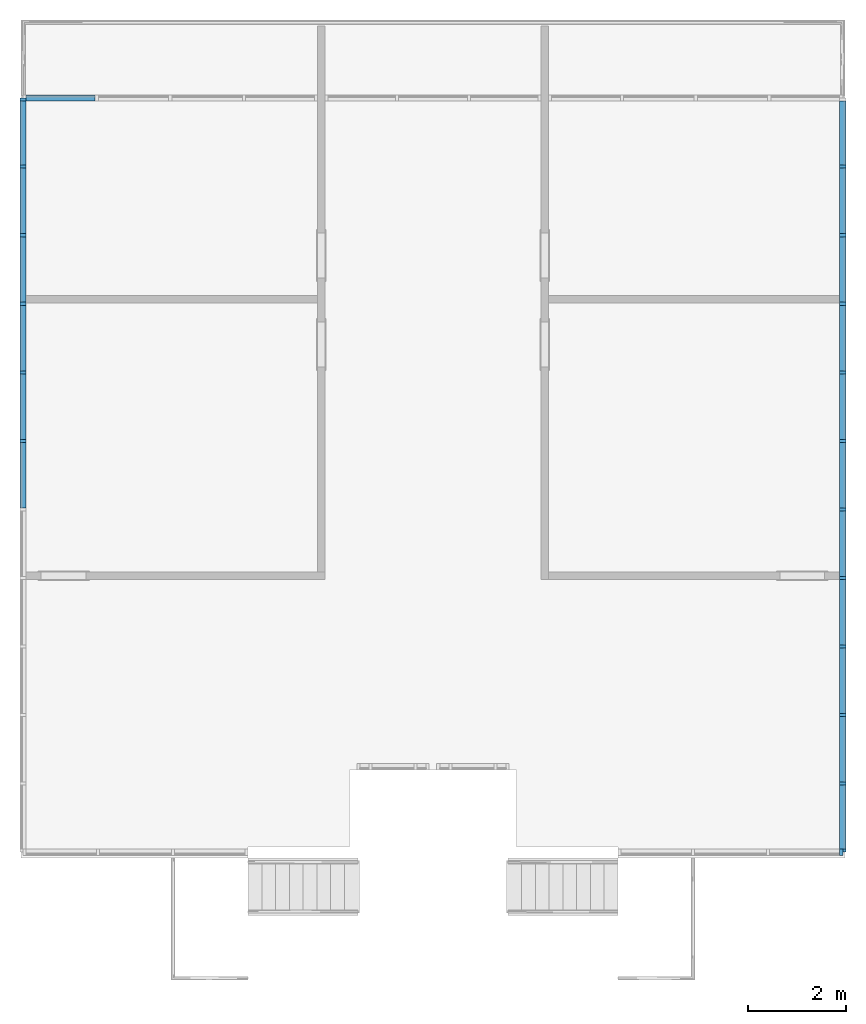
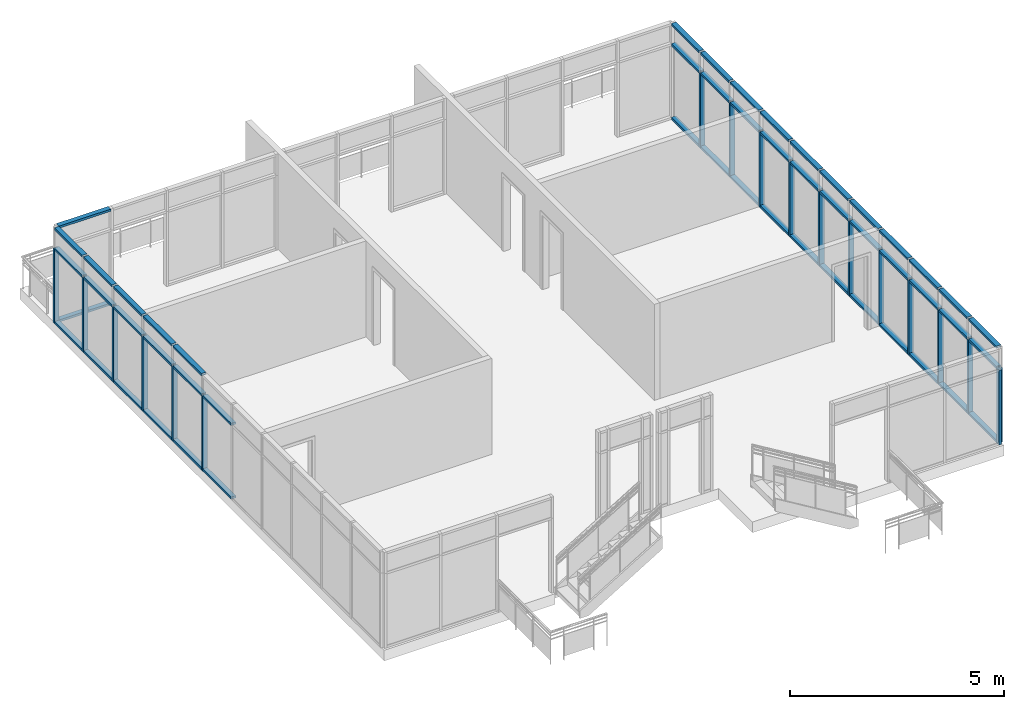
# One storey, part 2 of 11: 70 members, 4 elements without a shape of their own.
"""IFC2X3 building model written with IfcOpenShell, lengths in feet."""

from ifc_helpers import new_model, entity, si_unit, converted_unit, derived_unit, direction, frame, origin, origin_2d_with_axis, place, context, subcontext, project, spatial, rectangle, extrude, source, transform, mapped, material, type_object, type_shapes, element, aggregate, save


model = new_model("IFC2X3")

# Units and contexts
model_context = context("Model", 3, precision=0.0001, world=origin(), true_north=direction((6.12303176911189e-17, 1.0)))
body_context = subcontext(model_context, "Body", "Model", "MODEL_VIEW")
ifc_project = project(units=[converted_unit("LENGTHUNIT", "FOOT", entity("IfcRatioMeasure", 0.3048), si_unit("LENGTHUNIT", "METRE"), dimensions=[1, 0, 0, 0, 0, 0, 0]), converted_unit("AREAUNIT", "SQUARE FOOT", entity("IfcRatioMeasure", 0.09290304), si_unit("AREAUNIT", "SQUARE_METRE"), dimensions=[2, 0, 0, 0, 0, 0, 0]), converted_unit("VOLUMEUNIT", "CUBIC FOOT", entity("IfcRatioMeasure", 0.028316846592), si_unit("VOLUMEUNIT", "CUBIC_METRE"), dimensions=[3, 0, 0, 0, 0, 0, 0]), converted_unit("PLANEANGLEUNIT", "DEGREE", entity("IfcRatioMeasure", 0.0174532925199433), si_unit("PLANEANGLEUNIT", "RADIAN"), dimensions=[0, 0, 0, 0, 0, 0, 0]), si_unit("MASSUNIT", "GRAM", prefix="KILO"), derived_unit("MASSDENSITYUNIT", [(si_unit("MASSUNIT", "GRAM", prefix="KILO"), 1), (si_unit("LENGTHUNIT", "METRE"), -3)]), si_unit("TIMEUNIT", "SECOND"), si_unit("FREQUENCYUNIT", "HERTZ"), si_unit("THERMODYNAMICTEMPERATUREUNIT", "DEGREE_CELSIUS"), derived_unit("THERMALTRANSMITTANCEUNIT", [(si_unit("MASSUNIT", "GRAM", prefix="KILO"), 1), (si_unit("THERMODYNAMICTEMPERATUREUNIT", "KELVIN"), -1), (si_unit("TIMEUNIT", "SECOND"), -3)]), derived_unit("VOLUMETRICFLOWRATEUNIT", [(si_unit("LENGTHUNIT", "METRE"), 3), (si_unit("TIMEUNIT", "SECOND"), -1)]), si_unit("ELECTRICCURRENTUNIT", "AMPERE"), si_unit("ELECTRICVOLTAGEUNIT", "VOLT"), si_unit("POWERUNIT", "WATT"), si_unit("FORCEUNIT", "NEWTON"), si_unit("ILLUMINANCEUNIT", "LUX"), si_unit("LUMINOUSFLUXUNIT", "LUMEN"), si_unit("LUMINOUSINTENSITYUNIT", "CANDELA"), derived_unit("USERDEFINED", [(si_unit("MASSUNIT", "GRAM", prefix="KILO"), -1), (si_unit("LENGTHUNIT", "METRE"), -2), (si_unit("TIMEUNIT", "SECOND"), 3), (si_unit("LUMINOUSFLUXUNIT", "LUMEN"), 1)]), derived_unit("LINEARVELOCITYUNIT", [(si_unit("LENGTHUNIT", "METRE"), 1), (si_unit("TIMEUNIT", "SECOND"), -1)]), si_unit("PRESSUREUNIT", "PASCAL"), derived_unit("USERDEFINED", [(si_unit("LENGTHUNIT", "METRE"), -2), (si_unit("MASSUNIT", "GRAM", prefix="KILO"), 1), (si_unit("TIMEUNIT", "SECOND"), -2)])], contexts=[model_context])

# Site, building, storey
site_placement = place(None, origin())
site = spatial("IfcSite", under=ifc_project, at=site_placement, Name="Default", CompositionType="ELEMENT")
building_placement = place(site_placement, origin())
building = spatial("IfcBuilding", under=site, at=building_placement, CompositionType="ELEMENT")
storey_placement = place(building_placement, frame((0.0, 0.0, 40.0)))
storey = spatial("IfcBuildingStorey", under=building, at=storey_placement, Name="L 7", CompositionType="ELEMENT", Elevation=39.9999999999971)

# Curtain wall, member
curtain_wall_type = type_object("IfcCurtainWallType", Name="Curtain Wall:Storefront 2", PredefinedType="NOTDEFINED")
curtain_wall_1_placement = place(storey_placement, frame((0.0, 0.0, -40.0)))
curtain_wall_1 = element("IfcCurtainWall", 1, at=curtain_wall_1_placement, inside=storey, type_object=curtain_wall_type, Name="Curtain Wall:Storefront 2", ObjectType="Curtain Wall:Storefront 2")
ifc_material = material(Name="Aluminum")
member_type_1 = type_object("IfcMemberType", Name="2.5\" x 5\" rectangular", PredefinedType="MEMBER")
shared_shape_1 = source(origin(), body_context, "Body", "SweptSolid", [
    extrude(rectangle(XDim=0.416666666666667, YDim=0.208333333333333, at=origin_2d_with_axis()), frame((-0.104166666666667, 0.0, -7.0), z_axis=(0.0, 0.0, 1.0), x_axis=(0.0, -1.0, 0.0)), (0.0, 0.0, 1.0), 7.0),
])
type_shapes(member_type_1, [shared_shape_1])
member_1_placement = place(storey_placement, frame((-61.3251627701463, 43.3505254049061, 0.0), z_axis=(0.0, 0.0, -1.0), x_axis=(0.0, 1.0, 0.0)))
member_1 = element("IfcMember", 2, at=member_1_placement, type_object=member_type_1, material=ifc_material, Name="Rectangular Mullion:2.5\" x 5\" rectangular", ObjectType="2.5\" x 5\" rectangular", context=body_context, shape_type="MappedRepresentation", body=[
    mapped(shared_shape_1, transform((0.0, 0.0, 0.0), scale=1.0)),
])

curtain_wall_2_placement = place(storey_placement, frame((0.0, 0.0, -40.0)))
curtain_wall_2 = element("IfcCurtainWall", 3, at=curtain_wall_2_placement, inside=storey, type_object=curtain_wall_type, Name="Curtain Wall:Storefront 2", ObjectType="Curtain Wall:Storefront 2")
member_2_placement = place(storey_placement, frame((-6.65849610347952, -6.9411412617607, 0.0), z_axis=(0.0, 0.0, -1.0), x_axis=(0.0, -1.0, 0.0)))
member_2 = element("IfcMember", 4, at=member_2_placement, type_object=member_type_1, material=ifc_material, Name="Rectangular Mullion:2.5\" x 5\" rectangular", ObjectType="2.5\" x 5\" rectangular", context=body_context, shape_type="MappedRepresentation", body=[
    mapped(shared_shape_1, transform((0.0, 0.0, 0.0), scale=1.0)),
])

curtain_wall_3_placement = place(storey_placement, frame((0.0, 0.0, -40.0)))
curtain_wall_3 = element("IfcCurtainWall", 5, at=curtain_wall_3_placement, inside=storey, type_object=curtain_wall_type, Name="Curtain Wall:Storefront 2", ObjectType="Curtain Wall:Storefront 2")
member_type_2 = type_object("IfcMemberType", Name="2.5\" x 5\" rectangular", PredefinedType="MEMBER")
shared_shape_2 = source(origin(), body_context, "Body", "SweptSolid", [
    extrude(rectangle(XDim=0.416666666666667, YDim=0.208333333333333, at=origin_2d_with_axis()), frame((-0.104166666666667, 0.0, -7.0), z_axis=(0.0, 0.0, 1.0), x_axis=(0.0, -1.0, 0.0)), (0.0, 0.0, 1.0), 7.0),
])
type_shapes(member_type_2, [shared_shape_2])
member_3_placement = place(storey_placement, frame((-6.65849610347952, -6.94114126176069, 7.0)))
member_3 = element("IfcMember", 6, at=member_3_placement, type_object=member_type_2, material=ifc_material, Name="Rectangular Mullion:2.5\" x 5\" rectangular", ObjectType="2.5\" x 5\" rectangular", context=body_context, shape_type="MappedRepresentation", body=[
    mapped(shared_shape_2, transform((0.0, 0.0, 0.0), scale=1.0)),
])
aggregate(curtain_wall_3, [member_3])

# Member
member_type_3 = type_object("IfcMemberType", Name="2.5\" x 5\" rectangular", PredefinedType="MEMBER")
shared_shape_3 = source(origin(), body_context, "Body", "SweptSolid", [
    extrude(rectangle(XDim=0.416666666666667, YDim=0.208333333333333, at=origin_2d_with_axis()), frame((0.0, 0.0, -7.0), z_axis=(0.0, 0.0, 1.0), x_axis=(0.0, -1.0, 0.0)), (0.0, 0.0, 1.0), 7.0),
])
type_shapes(member_type_3, [shared_shape_3])
member_4_placement = place(storey_placement, frame((-61.3251627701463, 20.4906769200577, 0.0), z_axis=(0.0, 0.0, -1.0), x_axis=(0.0, 1.0, 0.0)))
member_4 = element("IfcMember", 7, at=member_4_placement, type_object=member_type_3, material=ifc_material, Name="Rectangular Mullion:2.5\" x 5\" rectangular", ObjectType="2.5\" x 5\" rectangular", context=body_context, shape_type="MappedRepresentation", body=[
    mapped(shared_shape_3, transform((0.0, 0.0, 0.0), scale=1.0)),
])

member_5_placement = place(storey_placement, frame((-61.3251627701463, 25.0626466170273, 0.0), z_axis=(0.0, 0.0, -1.0), x_axis=(0.0, 1.0, 0.0)))
member_5 = element("IfcMember", 8, at=member_5_placement, type_object=member_type_3, material=ifc_material, Name="Rectangular Mullion:2.5\" x 5\" rectangular", ObjectType="2.5\" x 5\" rectangular", context=body_context, shape_type="MappedRepresentation", body=[
    mapped(shared_shape_3, transform((0.0, 0.0, 0.0), scale=1.0)),
])

member_6_placement = place(storey_placement, frame((-61.3251627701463, 29.634616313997, 0.0), z_axis=(0.0, 0.0, -1.0), x_axis=(0.0, 1.0, 0.0)))
member_6 = element("IfcMember", 9, at=member_6_placement, type_object=member_type_3, material=ifc_material, Name="Rectangular Mullion:2.5\" x 5\" rectangular", ObjectType="2.5\" x 5\" rectangular", context=body_context, shape_type="MappedRepresentation", body=[
    mapped(shared_shape_3, transform((0.0, 0.0, 0.0), scale=1.0)),
])

member_7_placement = place(storey_placement, frame((-61.3251627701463, 34.2065860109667, 0.0), z_axis=(0.0, 0.0, -1.0), x_axis=(0.0, 1.0, 0.0)))
member_7 = element("IfcMember", 10, at=member_7_placement, type_object=member_type_3, material=ifc_material, Name="Rectangular Mullion:2.5\" x 5\" rectangular", ObjectType="2.5\" x 5\" rectangular", context=body_context, shape_type="MappedRepresentation", body=[
    mapped(shared_shape_3, transform((0.0, 0.0, 0.0), scale=1.0)),
])

member_8_placement = place(storey_placement, frame((-61.3251627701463, 38.7785557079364, 0.0), z_axis=(0.0, 0.0, -1.0), x_axis=(0.0, 1.0, 0.0)))
member_8 = element("IfcMember", 11, at=member_8_placement, type_object=member_type_3, material=ifc_material, Name="Rectangular Mullion:2.5\" x 5\" rectangular", ObjectType="2.5\" x 5\" rectangular", context=body_context, shape_type="MappedRepresentation", body=[
    mapped(shared_shape_3, transform((0.0, 0.0, 0.0), scale=1.0)),
])

member_9_placement = place(storey_placement, frame((-6.65849610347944, 38.7785557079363, 0.0), z_axis=(0.0, 0.0, -1.0), x_axis=(0.0, -1.0, 0.0)))
member_9 = element("IfcMember", 12, at=member_9_placement, type_object=member_type_3, material=ifc_material, Name="Rectangular Mullion:2.5\" x 5\" rectangular", ObjectType="2.5\" x 5\" rectangular", context=body_context, shape_type="MappedRepresentation", body=[
    mapped(shared_shape_3, transform((0.0, 0.0, 0.0), scale=1.0)),
])

member_10_placement = place(storey_placement, frame((-6.65849610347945, 34.2065860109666, 0.0), z_axis=(0.0, 0.0, -1.0), x_axis=(0.0, -1.0, 0.0)))
member_10 = element("IfcMember", 13, at=member_10_placement, type_object=member_type_3, material=ifc_material, Name="Rectangular Mullion:2.5\" x 5\" rectangular", ObjectType="2.5\" x 5\" rectangular", context=body_context, shape_type="MappedRepresentation", body=[
    mapped(shared_shape_3, transform((0.0, 0.0, 0.0), scale=1.0)),
])

member_11_placement = place(storey_placement, frame((-6.65849610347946, 29.6346163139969, 0.0), z_axis=(0.0, 0.0, -1.0), x_axis=(0.0, -1.0, 0.0)))
member_11 = element("IfcMember", 14, at=member_11_placement, type_object=member_type_3, material=ifc_material, Name="Rectangular Mullion:2.5\" x 5\" rectangular", ObjectType="2.5\" x 5\" rectangular", context=body_context, shape_type="MappedRepresentation", body=[
    mapped(shared_shape_3, transform((0.0, 0.0, 0.0), scale=1.0)),
])

member_12_placement = place(storey_placement, frame((-6.65849610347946, 25.0626466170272, 0.0), z_axis=(0.0, 0.0, -1.0), x_axis=(0.0, -1.0, 0.0)))
member_12 = element("IfcMember", 15, at=member_12_placement, type_object=member_type_3, material=ifc_material, Name="Rectangular Mullion:2.5\" x 5\" rectangular", ObjectType="2.5\" x 5\" rectangular", context=body_context, shape_type="MappedRepresentation", body=[
    mapped(shared_shape_3, transform((0.0, 0.0, 0.0), scale=1.0)),
])

member_13_placement = place(storey_placement, frame((-6.65849610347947, 20.4906769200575, 0.0), z_axis=(0.0, 0.0, -1.0), x_axis=(0.0, -1.0, 0.0)))
member_13 = element("IfcMember", 16, at=member_13_placement, type_object=member_type_3, material=ifc_material, Name="Rectangular Mullion:2.5\" x 5\" rectangular", ObjectType="2.5\" x 5\" rectangular", context=body_context, shape_type="MappedRepresentation", body=[
    mapped(shared_shape_3, transform((0.0, 0.0, 0.0), scale=1.0)),
])

member_14_placement = place(storey_placement, frame((-6.65849610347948, 15.9187072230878, 0.0), z_axis=(0.0, 0.0, -1.0), x_axis=(0.0, -1.0, 0.0)))
member_14 = element("IfcMember", 17, at=member_14_placement, type_object=member_type_3, material=ifc_material, Name="Rectangular Mullion:2.5\" x 5\" rectangular", ObjectType="2.5\" x 5\" rectangular", context=body_context, shape_type="MappedRepresentation", body=[
    mapped(shared_shape_3, transform((0.0, 0.0, 0.0), scale=1.0)),
])

member_15_placement = place(storey_placement, frame((-6.65849610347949, 11.3467375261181, 0.0), z_axis=(0.0, 0.0, -1.0), x_axis=(0.0, -1.0, 0.0)))
member_15 = element("IfcMember", 18, at=member_15_placement, type_object=member_type_3, material=ifc_material, Name="Rectangular Mullion:2.5\" x 5\" rectangular", ObjectType="2.5\" x 5\" rectangular", context=body_context, shape_type="MappedRepresentation", body=[
    mapped(shared_shape_3, transform((0.0, 0.0, 0.0), scale=1.0)),
])

member_16_placement = place(storey_placement, frame((-6.65849610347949, 6.77476782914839, 0.0), z_axis=(0.0, 0.0, -1.0), x_axis=(0.0, -1.0, 0.0)))
member_16 = element("IfcMember", 19, at=member_16_placement, type_object=member_type_3, material=ifc_material, Name="Rectangular Mullion:2.5\" x 5\" rectangular", ObjectType="2.5\" x 5\" rectangular", context=body_context, shape_type="MappedRepresentation", body=[
    mapped(shared_shape_3, transform((0.0, 0.0, 0.0), scale=1.0)),
])

member_17_placement = place(storey_placement, frame((-6.6584961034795, 2.20279813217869, 0.0), z_axis=(0.0, 0.0, -1.0), x_axis=(0.0, -1.0, 0.0)))
member_17 = element("IfcMember", 20, at=member_17_placement, type_object=member_type_3, material=ifc_material, Name="Rectangular Mullion:2.5\" x 5\" rectangular", ObjectType="2.5\" x 5\" rectangular", context=body_context, shape_type="MappedRepresentation", body=[
    mapped(shared_shape_3, transform((0.0, 0.0, 0.0), scale=1.0)),
])

member_18_placement = place(storey_placement, frame((-6.65849610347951, -2.369171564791, 0.0), z_axis=(0.0, 0.0, -1.0), x_axis=(0.0, -1.0, 0.0)))
member_18 = element("IfcMember", 21, at=member_18_placement, type_object=member_type_3, material=ifc_material, Name="Rectangular Mullion:2.5\" x 5\" rectangular", ObjectType="2.5\" x 5\" rectangular", context=body_context, shape_type="MappedRepresentation", body=[
    mapped(shared_shape_3, transform((0.0, 0.0, 0.0), scale=1.0)),
])

# Curtain wall, member
curtain_wall_4_placement = place(storey_placement, frame((0.0, 0.0, -40.0)))
curtain_wall_4 = element("IfcCurtainWall", 22, at=curtain_wall_4_placement, inside=storey, type_object=curtain_wall_type, Name="Curtain Wall:Storefront 2", ObjectType="Curtain Wall:Storefront 2")
member_type_4 = type_object("IfcMemberType", Name="2.5\" x 5\" rectangular", PredefinedType="MEMBER")
shared_shape_4 = source(origin(), body_context, "Body", "SweptSolid", [
    extrude(rectangle(XDim=0.416666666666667, YDim=0.208333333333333, at=origin_2d_with_axis()), frame((-0.104166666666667, 0.0, -4.59469696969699), z_axis=(0.0, 0.0, 1.0), x_axis=(0.0, -1.0, 0.0)), (0.0, 0.0, 1.0), 4.59469696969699),
])
type_shapes(member_type_4, [shared_shape_4])
member_19_placement = place(storey_placement, frame((-56.522132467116, 43.3505254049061, 9.0), z_axis=(1.0, 0.0, 0.0), x_axis=(0.0, 0.0, 1.0)))
member_19 = element("IfcMember", 23, at=member_19_placement, type_object=member_type_4, material=ifc_material, Name="Rectangular Mullion:2.5\" x 5\" rectangular", ObjectType="2.5\" x 5\" rectangular", context=body_context, shape_type="MappedRepresentation", body=[
    mapped(shared_shape_4, transform((0.0, 0.0, 0.0), scale=1.0)),
])

# Member
member_type_5 = type_object("IfcMemberType", Name="2.5\" x 5\" rectangular", PredefinedType="MEMBER")
shared_shape_5 = source(origin(), body_context, "Body", "SweptSolid", [
    extrude(rectangle(XDim=0.416666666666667, YDim=0.208333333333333, at=origin_2d_with_axis()), frame((-0.104166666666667, 0.0, -4.25946969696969), z_axis=(0.0, 0.0, 1.0), x_axis=(0.0, -1.0, 0.0)), (0.0, 0.0, 1.0), 4.2594696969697),
])
type_shapes(member_type_5, [shared_shape_5])
member_20_placement = place(storey_placement, frame((-61.3251627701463, 43.1421920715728, 9.0), z_axis=(0.0, 1.0, 0.0), x_axis=(0.0, 0.0, 1.0)))
member_20 = element("IfcMember", 24, at=member_20_placement, type_object=member_type_5, material=ifc_material, Name="Rectangular Mullion:2.5\" x 5\" rectangular", ObjectType="2.5\" x 5\" rectangular", context=body_context, shape_type="MappedRepresentation", body=[
    mapped(shared_shape_5, transform((0.0, 0.0, 0.0), scale=1.0)),
])

member_21_placement = place(storey_placement, frame((-6.65849610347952, -6.73280792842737, 9.0), z_axis=(0.0, -1.0, 0.0), x_axis=(0.0, 0.0, 1.0)))
member_21 = element("IfcMember", 25, at=member_21_placement, type_object=member_type_5, material=ifc_material, Name="Rectangular Mullion:2.5\" x 5\" rectangular", ObjectType="2.5\" x 5\" rectangular", context=body_context, shape_type="MappedRepresentation", body=[
    mapped(shared_shape_5, transform((0.0, 0.0, 0.0), scale=1.0)),
])

member_22_placement = place(storey_placement, frame((-6.65849610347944, 38.8827223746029, 9.0), z_axis=(0.0, -1.0, 0.0), x_axis=(0.0, 0.0, 1.0)))
member_22 = element("IfcMember", 26, at=member_22_placement, type_object=member_type_5, material=ifc_material, Name="Rectangular Mullion:2.5\" x 5\" rectangular", ObjectType="2.5\" x 5\" rectangular", context=body_context, shape_type="MappedRepresentation", body=[
    mapped(shared_shape_5, transform((0.0, 0.0, 0.0), scale=1.0)),
])

member_type_6 = type_object("IfcMemberType", Name="2.5\" x 5\" rectangular", PredefinedType="MEMBER")
shared_shape_6 = source(origin(), body_context, "Body", "SweptSolid", [
    extrude(rectangle(XDim=0.416666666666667, YDim=0.208333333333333, at=origin_2d_with_axis()), frame((-0.104166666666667, 0.0, -4.36363636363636), z_axis=(0.0, 0.0, 1.0), x_axis=(0.0, -1.0, 0.0)), (0.0, 0.0, 1.0), 4.36363636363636),
])
type_shapes(member_type_6, [shared_shape_6])
member_23_placement = place(storey_placement, frame((-61.3251627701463, 24.9584799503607, 9.0), z_axis=(0.0, 1.0, 0.0), x_axis=(0.0, 0.0, 1.0)))
member_23 = element("IfcMember", 27, at=member_23_placement, type_object=member_type_6, material=ifc_material, Name="Rectangular Mullion:2.5\" x 5\" rectangular", ObjectType="2.5\" x 5\" rectangular", context=body_context, shape_type="MappedRepresentation", body=[
    mapped(shared_shape_6, transform((0.0, 0.0, 0.0), scale=1.0)),
])

member_24_placement = place(storey_placement, frame((-61.3251627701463, 29.5304496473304, 9.0), z_axis=(0.0, 1.0, 0.0), x_axis=(0.0, 0.0, 1.0)))
member_24 = element("IfcMember", 28, at=member_24_placement, type_object=member_type_6, material=ifc_material, Name="Rectangular Mullion:2.5\" x 5\" rectangular", ObjectType="2.5\" x 5\" rectangular", context=body_context, shape_type="MappedRepresentation", body=[
    mapped(shared_shape_6, transform((0.0, 0.0, 0.0), scale=1.0)),
])

member_25_placement = place(storey_placement, frame((-61.3251627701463, 34.1024193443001, 9.0), z_axis=(0.0, 1.0, 0.0), x_axis=(0.0, 0.0, 1.0)))
member_25 = element("IfcMember", 29, at=member_25_placement, type_object=member_type_6, material=ifc_material, Name="Rectangular Mullion:2.5\" x 5\" rectangular", ObjectType="2.5\" x 5\" rectangular", context=body_context, shape_type="MappedRepresentation", body=[
    mapped(shared_shape_6, transform((0.0, 0.0, 0.0), scale=1.0)),
])

member_26_placement = place(storey_placement, frame((-61.3251627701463, 38.6743890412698, 9.0), z_axis=(0.0, 1.0, 0.0), x_axis=(0.0, 0.0, 1.0)))
member_26 = element("IfcMember", 30, at=member_26_placement, type_object=member_type_6, material=ifc_material, Name="Rectangular Mullion:2.5\" x 5\" rectangular", ObjectType="2.5\" x 5\" rectangular", context=body_context, shape_type="MappedRepresentation", body=[
    mapped(shared_shape_6, transform((0.0, 0.0, 0.0), scale=1.0)),
])

member_27_placement = place(storey_placement, frame((-6.65849610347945, 34.3107526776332, 9.0), z_axis=(0.0, -1.0, 0.0), x_axis=(0.0, 0.0, 1.0)))
member_27 = element("IfcMember", 31, at=member_27_placement, type_object=member_type_6, material=ifc_material, Name="Rectangular Mullion:2.5\" x 5\" rectangular", ObjectType="2.5\" x 5\" rectangular", context=body_context, shape_type="MappedRepresentation", body=[
    mapped(shared_shape_6, transform((0.0, 0.0, 0.0), scale=1.0)),
])

member_28_placement = place(storey_placement, frame((-6.65849610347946, 29.7387829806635, 9.0), z_axis=(0.0, -1.0, 0.0), x_axis=(0.0, 0.0, 1.0)))
member_28 = element("IfcMember", 32, at=member_28_placement, type_object=member_type_6, material=ifc_material, Name="Rectangular Mullion:2.5\" x 5\" rectangular", ObjectType="2.5\" x 5\" rectangular", context=body_context, shape_type="MappedRepresentation", body=[
    mapped(shared_shape_6, transform((0.0, 0.0, 0.0), scale=1.0)),
])

member_29_placement = place(storey_placement, frame((-6.65849610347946, 25.1668132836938, 9.0), z_axis=(0.0, -1.0, 0.0), x_axis=(0.0, 0.0, 1.0)))
member_29 = element("IfcMember", 33, at=member_29_placement, type_object=member_type_6, material=ifc_material, Name="Rectangular Mullion:2.5\" x 5\" rectangular", ObjectType="2.5\" x 5\" rectangular", context=body_context, shape_type="MappedRepresentation", body=[
    mapped(shared_shape_6, transform((0.0, 0.0, 0.0), scale=1.0)),
])

member_30_placement = place(storey_placement, frame((-6.65849610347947, 20.5948435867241, 9.0), z_axis=(0.0, -1.0, 0.0), x_axis=(0.0, 0.0, 1.0)))
member_30 = element("IfcMember", 34, at=member_30_placement, type_object=member_type_6, material=ifc_material, Name="Rectangular Mullion:2.5\" x 5\" rectangular", ObjectType="2.5\" x 5\" rectangular", context=body_context, shape_type="MappedRepresentation", body=[
    mapped(shared_shape_6, transform((0.0, 0.0, 0.0), scale=1.0)),
])

member_31_placement = place(storey_placement, frame((-6.65849610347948, 16.0228738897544, 9.0), z_axis=(0.0, -1.0, 0.0), x_axis=(0.0, 0.0, 1.0)))
member_31 = element("IfcMember", 35, at=member_31_placement, type_object=member_type_6, material=ifc_material, Name="Rectangular Mullion:2.5\" x 5\" rectangular", ObjectType="2.5\" x 5\" rectangular", context=body_context, shape_type="MappedRepresentation", body=[
    mapped(shared_shape_6, transform((0.0, 0.0, 0.0), scale=1.0)),
])

member_32_placement = place(storey_placement, frame((-6.65849610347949, 11.4509041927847, 9.0), z_axis=(0.0, -1.0, 0.0), x_axis=(0.0, 0.0, 1.0)))
member_32 = element("IfcMember", 36, at=member_32_placement, type_object=member_type_6, material=ifc_material, Name="Rectangular Mullion:2.5\" x 5\" rectangular", ObjectType="2.5\" x 5\" rectangular", context=body_context, shape_type="MappedRepresentation", body=[
    mapped(shared_shape_6, transform((0.0, 0.0, 0.0), scale=1.0)),
])

member_33_placement = place(storey_placement, frame((-6.65849610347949, 6.87893449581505, 9.0), z_axis=(0.0, -1.0, 0.0), x_axis=(0.0, 0.0, 1.0)))
member_33 = element("IfcMember", 37, at=member_33_placement, type_object=member_type_6, material=ifc_material, Name="Rectangular Mullion:2.5\" x 5\" rectangular", ObjectType="2.5\" x 5\" rectangular", context=body_context, shape_type="MappedRepresentation", body=[
    mapped(shared_shape_6, transform((0.0, 0.0, 0.0), scale=1.0)),
])

member_34_placement = place(storey_placement, frame((-6.6584961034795, 2.30696479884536, 9.0), z_axis=(0.0, -1.0, 0.0), x_axis=(0.0, 0.0, 1.0)))
member_34 = element("IfcMember", 38, at=member_34_placement, type_object=member_type_6, material=ifc_material, Name="Rectangular Mullion:2.5\" x 5\" rectangular", ObjectType="2.5\" x 5\" rectangular", context=body_context, shape_type="MappedRepresentation", body=[
    mapped(shared_shape_6, transform((0.0, 0.0, 0.0), scale=1.0)),
])

member_35_placement = place(storey_placement, frame((-6.65849610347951, -2.26500489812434, 9.0), z_axis=(0.0, -1.0, 0.0), x_axis=(0.0, 0.0, 1.0)))
member_35 = element("IfcMember", 39, at=member_35_placement, type_object=member_type_6, material=ifc_material, Name="Rectangular Mullion:2.5\" x 5\" rectangular", ObjectType="2.5\" x 5\" rectangular", context=body_context, shape_type="MappedRepresentation", body=[
    mapped(shared_shape_6, transform((0.0, 0.0, 0.0), scale=1.0)),
])

member_type_7 = type_object("IfcMemberType", Name="2.5\" x 5\" rectangular", PredefinedType="MEMBER")
shared_shape_7 = source(origin(), body_context, "Body", "SweptSolid", [
    extrude(rectangle(XDim=0.416666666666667, YDim=0.208333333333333, at=origin_2d_with_axis()), frame((-0.104166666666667, 0.0, -4.25946969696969), z_axis=(0.0, 0.0, 1.0), x_axis=(0.0, -1.0, 0.0)), (0.0, 0.0, 1.0), 4.25946969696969),
])
type_shapes(member_type_7, [shared_shape_7])
member_36_placement = place(storey_placement, frame((-61.3251627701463, 38.8827223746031, 0.0), z_axis=(0.0, -1.0, 0.0), x_axis=(0.0, 0.0, -1.0)))
member_36 = element("IfcMember", 40, at=member_36_placement, type_object=member_type_7, material=ifc_material, Name="Rectangular Mullion:2.5\" x 5\" rectangular", ObjectType="2.5\" x 5\" rectangular", context=body_context, shape_type="MappedRepresentation", body=[
    mapped(shared_shape_7, transform((0.0, 0.0, 0.0), scale=1.0)),
])

member_37_placement = place(storey_placement, frame((-6.65849610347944, 43.1421920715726, 0.0), z_axis=(0.0, 1.0, 0.0), x_axis=(0.0, 0.0, -1.0)))
member_37 = element("IfcMember", 41, at=member_37_placement, type_object=member_type_7, material=ifc_material, Name="Rectangular Mullion:2.5\" x 5\" rectangular", ObjectType="2.5\" x 5\" rectangular", context=body_context, shape_type="MappedRepresentation", body=[
    mapped(shared_shape_7, transform((0.0, 0.0, 0.0), scale=1.0)),
])

member_38_placement = place(storey_placement, frame((-6.65849610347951, -2.47333823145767, 0.0), z_axis=(0.0, 1.0, 0.0), x_axis=(0.0, 0.0, -1.0)))
member_38 = element("IfcMember", 42, at=member_38_placement, type_object=member_type_7, material=ifc_material, Name="Rectangular Mullion:2.5\" x 5\" rectangular", ObjectType="2.5\" x 5\" rectangular", context=body_context, shape_type="MappedRepresentation", body=[
    mapped(shared_shape_7, transform((0.0, 0.0, 0.0), scale=1.0)),
])

member_type_8 = type_object("IfcMemberType", Name="2.5\" x 5\" rectangular", PredefinedType="MEMBER")
shared_shape_8 = source(origin(), body_context, "Body", "SweptSolid", [
    extrude(rectangle(XDim=0.416666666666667, YDim=0.208333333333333, at=origin_2d_with_axis()), frame((-0.104166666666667, 0.0, -4.36363636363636), z_axis=(0.0, 0.0, 1.0), x_axis=(0.0, -1.0, 0.0)), (0.0, 0.0, 1.0), 4.36363636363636),
])
type_shapes(member_type_8, [shared_shape_8])
member_39_placement = place(storey_placement, frame((-61.3251627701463, 16.0228738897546, 0.0), z_axis=(0.0, -1.0, 0.0), x_axis=(0.0, 0.0, -1.0)))
member_39 = element("IfcMember", 43, at=member_39_placement, type_object=member_type_8, material=ifc_material, Name="Rectangular Mullion:2.5\" x 5\" rectangular", ObjectType="2.5\" x 5\" rectangular", context=body_context, shape_type="MappedRepresentation", body=[
    mapped(shared_shape_8, transform((0.0, 0.0, 0.0), scale=1.0)),
])

member_40_placement = place(storey_placement, frame((-61.3251627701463, 20.5948435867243, 0.0), z_axis=(0.0, -1.0, 0.0), x_axis=(0.0, 0.0, -1.0)))
member_40 = element("IfcMember", 44, at=member_40_placement, type_object=member_type_8, material=ifc_material, Name="Rectangular Mullion:2.5\" x 5\" rectangular", ObjectType="2.5\" x 5\" rectangular", context=body_context, shape_type="MappedRepresentation", body=[
    mapped(shared_shape_8, transform((0.0, 0.0, 0.0), scale=1.0)),
])

member_41_placement = place(storey_placement, frame((-61.3251627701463, 25.166813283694, 0.0), z_axis=(0.0, -1.0, 0.0), x_axis=(0.0, 0.0, -1.0)))
member_41 = element("IfcMember", 45, at=member_41_placement, type_object=member_type_8, material=ifc_material, Name="Rectangular Mullion:2.5\" x 5\" rectangular", ObjectType="2.5\" x 5\" rectangular", context=body_context, shape_type="MappedRepresentation", body=[
    mapped(shared_shape_8, transform((0.0, 0.0, 0.0), scale=1.0)),
])

member_42_placement = place(storey_placement, frame((-61.3251627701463, 29.7387829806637, 0.0), z_axis=(0.0, -1.0, 0.0), x_axis=(0.0, 0.0, -1.0)))
member_42 = element("IfcMember", 46, at=member_42_placement, type_object=member_type_8, material=ifc_material, Name="Rectangular Mullion:2.5\" x 5\" rectangular", ObjectType="2.5\" x 5\" rectangular", context=body_context, shape_type="MappedRepresentation", body=[
    mapped(shared_shape_8, transform((0.0, 0.0, 0.0), scale=1.0)),
])

member_43_placement = place(storey_placement, frame((-61.3251627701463, 34.3107526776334, 0.0), z_axis=(0.0, -1.0, 0.0), x_axis=(0.0, 0.0, -1.0)))
member_43 = element("IfcMember", 47, at=member_43_placement, type_object=member_type_8, material=ifc_material, Name="Rectangular Mullion:2.5\" x 5\" rectangular", ObjectType="2.5\" x 5\" rectangular", context=body_context, shape_type="MappedRepresentation", body=[
    mapped(shared_shape_8, transform((0.0, 0.0, 0.0), scale=1.0)),
])

member_44_placement = place(storey_placement, frame((-6.65849610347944, 38.6743890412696, 0.0), z_axis=(0.0, 1.0, 0.0), x_axis=(0.0, 0.0, -1.0)))
member_44 = element("IfcMember", 48, at=member_44_placement, type_object=member_type_8, material=ifc_material, Name="Rectangular Mullion:2.5\" x 5\" rectangular", ObjectType="2.5\" x 5\" rectangular", context=body_context, shape_type="MappedRepresentation", body=[
    mapped(shared_shape_8, transform((0.0, 0.0, 0.0), scale=1.0)),
])

member_45_placement = place(storey_placement, frame((-6.65849610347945, 34.1024193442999, 0.0), z_axis=(0.0, 1.0, 0.0), x_axis=(0.0, 0.0, -1.0)))
member_45 = element("IfcMember", 49, at=member_45_placement, type_object=member_type_8, material=ifc_material, Name="Rectangular Mullion:2.5\" x 5\" rectangular", ObjectType="2.5\" x 5\" rectangular", context=body_context, shape_type="MappedRepresentation", body=[
    mapped(shared_shape_8, transform((0.0, 0.0, 0.0), scale=1.0)),
])

member_46_placement = place(storey_placement, frame((-6.65849610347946, 29.5304496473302, 0.0), z_axis=(0.0, 1.0, 0.0), x_axis=(0.0, 0.0, -1.0)))
member_46 = element("IfcMember", 50, at=member_46_placement, type_object=member_type_8, material=ifc_material, Name="Rectangular Mullion:2.5\" x 5\" rectangular", ObjectType="2.5\" x 5\" rectangular", context=body_context, shape_type="MappedRepresentation", body=[
    mapped(shared_shape_8, transform((0.0, 0.0, 0.0), scale=1.0)),
])

member_47_placement = place(storey_placement, frame((-6.65849610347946, 24.9584799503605, 0.0), z_axis=(0.0, 1.0, 0.0), x_axis=(0.0, 0.0, -1.0)))
member_47 = element("IfcMember", 51, at=member_47_placement, type_object=member_type_8, material=ifc_material, Name="Rectangular Mullion:2.5\" x 5\" rectangular", ObjectType="2.5\" x 5\" rectangular", context=body_context, shape_type="MappedRepresentation", body=[
    mapped(shared_shape_8, transform((0.0, 0.0, 0.0), scale=1.0)),
])

member_48_placement = place(storey_placement, frame((-6.65849610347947, 20.3865102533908, 0.0), z_axis=(0.0, 1.0, 0.0), x_axis=(0.0, 0.0, -1.0)))
member_48 = element("IfcMember", 52, at=member_48_placement, type_object=member_type_8, material=ifc_material, Name="Rectangular Mullion:2.5\" x 5\" rectangular", ObjectType="2.5\" x 5\" rectangular", context=body_context, shape_type="MappedRepresentation", body=[
    mapped(shared_shape_8, transform((0.0, 0.0, 0.0), scale=1.0)),
])

member_49_placement = place(storey_placement, frame((-6.65849610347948, 15.8145405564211, 0.0), z_axis=(0.0, 1.0, 0.0), x_axis=(0.0, 0.0, -1.0)))
member_49 = element("IfcMember", 53, at=member_49_placement, type_object=member_type_8, material=ifc_material, Name="Rectangular Mullion:2.5\" x 5\" rectangular", ObjectType="2.5\" x 5\" rectangular", context=body_context, shape_type="MappedRepresentation", body=[
    mapped(shared_shape_8, transform((0.0, 0.0, 0.0), scale=1.0)),
])

member_50_placement = place(storey_placement, frame((-6.65849610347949, 11.2425708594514, 0.0), z_axis=(0.0, 1.0, 0.0), x_axis=(0.0, 0.0, -1.0)))
member_50 = element("IfcMember", 54, at=member_50_placement, type_object=member_type_8, material=ifc_material, Name="Rectangular Mullion:2.5\" x 5\" rectangular", ObjectType="2.5\" x 5\" rectangular", context=body_context, shape_type="MappedRepresentation", body=[
    mapped(shared_shape_8, transform((0.0, 0.0, 0.0), scale=1.0)),
])

member_51_placement = place(storey_placement, frame((-6.65849610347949, 6.67060116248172, 0.0), z_axis=(0.0, 1.0, 0.0), x_axis=(0.0, 0.0, -1.0)))
member_51 = element("IfcMember", 55, at=member_51_placement, type_object=member_type_8, material=ifc_material, Name="Rectangular Mullion:2.5\" x 5\" rectangular", ObjectType="2.5\" x 5\" rectangular", context=body_context, shape_type="MappedRepresentation", body=[
    mapped(shared_shape_8, transform((0.0, 0.0, 0.0), scale=1.0)),
])

member_52_placement = place(storey_placement, frame((-6.6584961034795, 2.09863146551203, 0.0), z_axis=(0.0, 1.0, 0.0), x_axis=(0.0, 0.0, -1.0)))
member_52 = element("IfcMember", 56, at=member_52_placement, type_object=member_type_8, material=ifc_material, Name="Rectangular Mullion:2.5\" x 5\" rectangular", ObjectType="2.5\" x 5\" rectangular", context=body_context, shape_type="MappedRepresentation", body=[
    mapped(shared_shape_8, transform((0.0, 0.0, 0.0), scale=1.0)),
])

member_type_9 = type_object("IfcMemberType", Name="2.5\" x 5\" rectangular", PredefinedType="MEMBER")
shared_shape_9 = source(origin(), body_context, "Body", "SweptSolid", [
    extrude(rectangle(XDim=0.416666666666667, YDim=0.208333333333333, at=origin_2d_with_axis()), frame((0.0, 0.0, -4.2594696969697), z_axis=(0.0, 0.0, 1.0), x_axis=(0.0, -1.0, 0.0)), (0.0, 0.0, 1.0), 4.2594696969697),
])
type_shapes(member_type_9, [shared_shape_9])
member_53_placement = place(storey_placement, frame((-61.3251627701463, 43.1421920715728, 7.0), z_axis=(0.0, 1.0, 0.0), x_axis=(0.0, 0.0, 1.0)))
member_53 = element("IfcMember", 57, at=member_53_placement, type_object=member_type_9, material=ifc_material, Name="Rectangular Mullion:2.5\" x 5\" rectangular", ObjectType="2.5\" x 5\" rectangular", context=body_context, shape_type="MappedRepresentation", body=[
    mapped(shared_shape_9, transform((0.0, 0.0, 0.0), scale=1.0)),
])

member_54_placement = place(storey_placement, frame((-6.65849610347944, 38.8827223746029, 7.0), z_axis=(0.0, -1.0, 0.0), x_axis=(0.0, 0.0, 1.0)))
member_54 = element("IfcMember", 58, at=member_54_placement, type_object=member_type_9, material=ifc_material, Name="Rectangular Mullion:2.5\" x 5\" rectangular", ObjectType="2.5\" x 5\" rectangular", context=body_context, shape_type="MappedRepresentation", body=[
    mapped(shared_shape_9, transform((0.0, 0.0, 0.0), scale=1.0)),
])

member_55_placement = place(storey_placement, frame((-6.65849610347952, -6.73280792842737, 7.0), z_axis=(0.0, -1.0, 0.0), x_axis=(0.0, 0.0, 1.0)))
member_55 = element("IfcMember", 59, at=member_55_placement, type_object=member_type_9, material=ifc_material, Name="Rectangular Mullion:2.5\" x 5\" rectangular", ObjectType="2.5\" x 5\" rectangular", context=body_context, shape_type="MappedRepresentation", body=[
    mapped(shared_shape_9, transform((0.0, 0.0, 0.0), scale=1.0)),
])

member_type_10 = type_object("IfcMemberType", Name="2.5\" x 5\" rectangular", PredefinedType="MEMBER")
shared_shape_10 = source(origin(), body_context, "Body", "SweptSolid", [
    extrude(rectangle(XDim=0.416666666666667, YDim=0.208333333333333, at=origin_2d_with_axis()), frame((0.0, 0.0, -4.36363636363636), z_axis=(0.0, 0.0, 1.0), x_axis=(0.0, -1.0, 0.0)), (0.0, 0.0, 1.0), 4.36363636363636),
])
type_shapes(member_type_10, [shared_shape_10])
member_56_placement = place(storey_placement, frame((-61.3251627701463, 20.386510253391, 7.0), z_axis=(0.0, 1.0, 0.0), x_axis=(0.0, 0.0, 1.0)))
member_56 = element("IfcMember", 60, at=member_56_placement, type_object=member_type_10, material=ifc_material, Name="Rectangular Mullion:2.5\" x 5\" rectangular", ObjectType="2.5\" x 5\" rectangular", context=body_context, shape_type="MappedRepresentation", body=[
    mapped(shared_shape_10, transform((0.0, 0.0, 0.0), scale=1.0)),
])

member_57_placement = place(storey_placement, frame((-61.3251627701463, 24.9584799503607, 7.0), z_axis=(0.0, 1.0, 0.0), x_axis=(0.0, 0.0, 1.0)))
member_57 = element("IfcMember", 61, at=member_57_placement, type_object=member_type_10, material=ifc_material, Name="Rectangular Mullion:2.5\" x 5\" rectangular", ObjectType="2.5\" x 5\" rectangular", context=body_context, shape_type="MappedRepresentation", body=[
    mapped(shared_shape_10, transform((0.0, 0.0, 0.0), scale=1.0)),
])

member_58_placement = place(storey_placement, frame((-61.3251627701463, 29.5304496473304, 7.0), z_axis=(0.0, 1.0, 0.0), x_axis=(0.0, 0.0, 1.0)))
member_58 = element("IfcMember", 62, at=member_58_placement, type_object=member_type_10, material=ifc_material, Name="Rectangular Mullion:2.5\" x 5\" rectangular", ObjectType="2.5\" x 5\" rectangular", context=body_context, shape_type="MappedRepresentation", body=[
    mapped(shared_shape_10, transform((0.0, 0.0, 0.0), scale=1.0)),
])

member_59_placement = place(storey_placement, frame((-61.3251627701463, 34.1024193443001, 7.0), z_axis=(0.0, 1.0, 0.0), x_axis=(0.0, 0.0, 1.0)))
member_59 = element("IfcMember", 63, at=member_59_placement, type_object=member_type_10, material=ifc_material, Name="Rectangular Mullion:2.5\" x 5\" rectangular", ObjectType="2.5\" x 5\" rectangular", context=body_context, shape_type="MappedRepresentation", body=[
    mapped(shared_shape_10, transform((0.0, 0.0, 0.0), scale=1.0)),
])

member_60_placement = place(storey_placement, frame((-61.3251627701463, 38.6743890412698, 7.0), z_axis=(0.0, 1.0, 0.0), x_axis=(0.0, 0.0, 1.0)))
member_60 = element("IfcMember", 64, at=member_60_placement, type_object=member_type_10, material=ifc_material, Name="Rectangular Mullion:2.5\" x 5\" rectangular", ObjectType="2.5\" x 5\" rectangular", context=body_context, shape_type="MappedRepresentation", body=[
    mapped(shared_shape_10, transform((0.0, 0.0, 0.0), scale=1.0)),
])

aggregate(curtain_wall_1, [member_20, member_23, member_24, member_25, member_39, member_40, member_41, member_42, member_43, member_1, member_56, member_57, member_58, member_59, member_60, member_4, member_5, member_6, member_7, member_26, member_36, member_53, member_8])

member_61_placement = place(storey_placement, frame((-6.65849610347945, 34.3107526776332, 7.0), z_axis=(0.0, -1.0, 0.0), x_axis=(0.0, 0.0, 1.0)))
member_61 = element("IfcMember", 65, at=member_61_placement, type_object=member_type_10, material=ifc_material, Name="Rectangular Mullion:2.5\" x 5\" rectangular", ObjectType="2.5\" x 5\" rectangular", context=body_context, shape_type="MappedRepresentation", body=[
    mapped(shared_shape_10, transform((0.0, 0.0, 0.0), scale=1.0)),
])

member_62_placement = place(storey_placement, frame((-6.65849610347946, 29.7387829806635, 7.0), z_axis=(0.0, -1.0, 0.0), x_axis=(0.0, 0.0, 1.0)))
member_62 = element("IfcMember", 66, at=member_62_placement, type_object=member_type_10, material=ifc_material, Name="Rectangular Mullion:2.5\" x 5\" rectangular", ObjectType="2.5\" x 5\" rectangular", context=body_context, shape_type="MappedRepresentation", body=[
    mapped(shared_shape_10, transform((0.0, 0.0, 0.0), scale=1.0)),
])

member_63_placement = place(storey_placement, frame((-6.65849610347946, 25.1668132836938, 7.0), z_axis=(0.0, -1.0, 0.0), x_axis=(0.0, 0.0, 1.0)))
member_63 = element("IfcMember", 67, at=member_63_placement, type_object=member_type_10, material=ifc_material, Name="Rectangular Mullion:2.5\" x 5\" rectangular", ObjectType="2.5\" x 5\" rectangular", context=body_context, shape_type="MappedRepresentation", body=[
    mapped(shared_shape_10, transform((0.0, 0.0, 0.0), scale=1.0)),
])

member_64_placement = place(storey_placement, frame((-6.65849610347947, 20.5948435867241, 7.0), z_axis=(0.0, -1.0, 0.0), x_axis=(0.0, 0.0, 1.0)))
member_64 = element("IfcMember", 68, at=member_64_placement, type_object=member_type_10, material=ifc_material, Name="Rectangular Mullion:2.5\" x 5\" rectangular", ObjectType="2.5\" x 5\" rectangular", context=body_context, shape_type="MappedRepresentation", body=[
    mapped(shared_shape_10, transform((0.0, 0.0, 0.0), scale=1.0)),
])

member_65_placement = place(storey_placement, frame((-6.65849610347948, 16.0228738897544, 7.0), z_axis=(0.0, -1.0, 0.0), x_axis=(0.0, 0.0, 1.0)))
member_65 = element("IfcMember", 69, at=member_65_placement, type_object=member_type_10, material=ifc_material, Name="Rectangular Mullion:2.5\" x 5\" rectangular", ObjectType="2.5\" x 5\" rectangular", context=body_context, shape_type="MappedRepresentation", body=[
    mapped(shared_shape_10, transform((0.0, 0.0, 0.0), scale=1.0)),
])

member_66_placement = place(storey_placement, frame((-6.65849610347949, 11.4509041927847, 7.0), z_axis=(0.0, -1.0, 0.0), x_axis=(0.0, 0.0, 1.0)))
member_66 = element("IfcMember", 70, at=member_66_placement, type_object=member_type_10, material=ifc_material, Name="Rectangular Mullion:2.5\" x 5\" rectangular", ObjectType="2.5\" x 5\" rectangular", context=body_context, shape_type="MappedRepresentation", body=[
    mapped(shared_shape_10, transform((0.0, 0.0, 0.0), scale=1.0)),
])

member_67_placement = place(storey_placement, frame((-6.65849610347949, 6.87893449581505, 7.0), z_axis=(0.0, -1.0, 0.0), x_axis=(0.0, 0.0, 1.0)))
member_67 = element("IfcMember", 71, at=member_67_placement, type_object=member_type_10, material=ifc_material, Name="Rectangular Mullion:2.5\" x 5\" rectangular", ObjectType="2.5\" x 5\" rectangular", context=body_context, shape_type="MappedRepresentation", body=[
    mapped(shared_shape_10, transform((0.0, 0.0, 0.0), scale=1.0)),
])

member_68_placement = place(storey_placement, frame((-6.6584961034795, 2.30696479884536, 7.0), z_axis=(0.0, -1.0, 0.0), x_axis=(0.0, 0.0, 1.0)))
member_68 = element("IfcMember", 72, at=member_68_placement, type_object=member_type_10, material=ifc_material, Name="Rectangular Mullion:2.5\" x 5\" rectangular", ObjectType="2.5\" x 5\" rectangular", context=body_context, shape_type="MappedRepresentation", body=[
    mapped(shared_shape_10, transform((0.0, 0.0, 0.0), scale=1.0)),
])

member_69_placement = place(storey_placement, frame((-6.65849610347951, -2.26500489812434, 7.0), z_axis=(0.0, -1.0, 0.0), x_axis=(0.0, 0.0, 1.0)))
member_69 = element("IfcMember", 73, at=member_69_placement, type_object=member_type_10, material=ifc_material, Name="Rectangular Mullion:2.5\" x 5\" rectangular", ObjectType="2.5\" x 5\" rectangular", context=body_context, shape_type="MappedRepresentation", body=[
    mapped(shared_shape_10, transform((0.0, 0.0, 0.0), scale=1.0)),
])

aggregate(curtain_wall_2, [member_21, member_22, member_27, member_28, member_29, member_30, member_31, member_32, member_33, member_34, member_37, member_44, member_45, member_46, member_47, member_48, member_49, member_50, member_51, member_52, member_2, member_54, member_61, member_62, member_63, member_64, member_65, member_66, member_67, member_68, member_69, member_9, member_10, member_11, member_12, member_13, member_14, member_15, member_16, member_17, member_35, member_38, member_55, member_18])

member_type_11 = type_object("IfcMemberType", Name="2.5\" x 5\" rectangular", PredefinedType="MEMBER")
shared_shape_11 = source(origin(), body_context, "Body", "SweptSolid", [
    extrude(rectangle(XDim=0.416666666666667, YDim=0.208333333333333, at=origin_2d_with_axis()), frame((-0.104166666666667, 0.0, -4.59469696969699), z_axis=(0.0, 0.0, 1.0), x_axis=(0.0, -1.0, 0.0)), (0.0, 0.0, 1.0), 4.59469696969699),
])
type_shapes(member_type_11, [shared_shape_11])
member_70_placement = place(storey_placement, frame((-61.1168294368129, 43.3505254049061, 0.0), z_axis=(-1.0, 0.0, 0.0), x_axis=(0.0, 0.0, -1.0)))
member_70 = element("IfcMember", 74, at=member_70_placement, type_object=member_type_11, material=ifc_material, Name="Rectangular Mullion:2.5\" x 5\" rectangular", ObjectType="2.5\" x 5\" rectangular", context=body_context, shape_type="MappedRepresentation", body=[
    mapped(shared_shape_11, transform((0.0, 0.0, 0.0), scale=1.0)),
])

aggregate(curtain_wall_4, [member_19, member_70])

save(model, "model.ifc")
